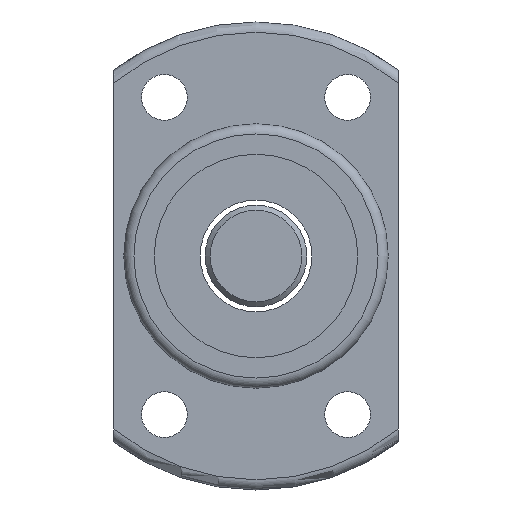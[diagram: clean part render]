
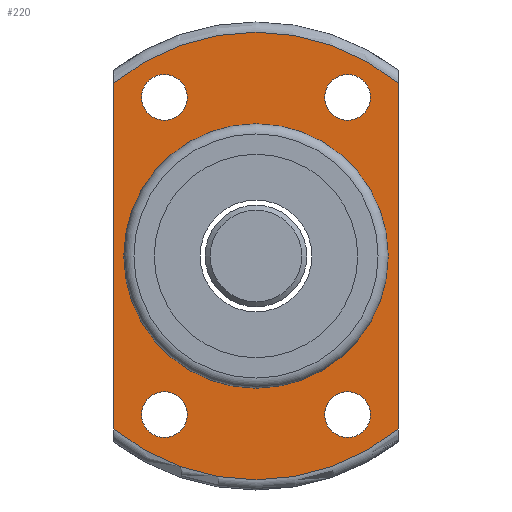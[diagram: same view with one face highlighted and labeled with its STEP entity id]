
A CAD part, left-side view. The second image highlights one B-rep face of the part: STEP entity #220.
In plain terms, the highlighted planar face has unit normal (-1, 0, 0).
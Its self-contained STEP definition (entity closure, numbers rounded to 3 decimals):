
#97=LINE('',#1059,#105);
#98=LINE('',#1060,#106);
#105=VECTOR('',#835,1.);
#106=VECTOR('',#836,1.);
#161=FACE_BOUND('',#308,.T.);
#162=FACE_BOUND('',#309,.T.);
#163=FACE_BOUND('',#310,.T.);
#164=FACE_BOUND('',#311,.T.);
#165=FACE_BOUND('',#312,.T.);
#220=ADVANCED_FACE('',(#161,#162,#163,#164,#165,#279),#257,.F.);
#257=PLANE('',#715);
#279=FACE_OUTER_BOUND('',#313,.T.);
#308=EDGE_LOOP('',(#401));
#309=EDGE_LOOP('',(#402));
#310=EDGE_LOOP('',(#403));
#311=EDGE_LOOP('',(#404));
#312=EDGE_LOOP('',(#405));
#313=EDGE_LOOP('',(#406,#407,#408,#409));
#401=ORIENTED_EDGE('',*,*,#590,.T.);
#402=ORIENTED_EDGE('',*,*,#591,.T.);
#403=ORIENTED_EDGE('',*,*,#592,.T.);
#404=ORIENTED_EDGE('',*,*,#593,.T.);
#405=ORIENTED_EDGE('',*,*,#594,.T.);
#406=ORIENTED_EDGE('',*,*,#595,.F.);
#407=ORIENTED_EDGE('',*,*,#596,.T.);
#408=ORIENTED_EDGE('',*,*,#579,.F.);
#409=ORIENTED_EDGE('',*,*,#597,.F.);
#520=VERTEX_POINT('',#998);
#522=VERTEX_POINT('',#1007);
#531=VERTEX_POINT('',#1047);
#532=VERTEX_POINT('',#1049);
#533=VERTEX_POINT('',#1051);
#534=VERTEX_POINT('',#1053);
#535=VERTEX_POINT('',#1055);
#536=VERTEX_POINT('',#1057);
#537=VERTEX_POINT('',#1058);
#579=EDGE_CURVE('',#522,#520,#646,.T.);
#590=EDGE_CURVE('',#531,#531,#651,.T.);
#591=EDGE_CURVE('',#532,#532,#652,.T.);
#592=EDGE_CURVE('',#533,#533,#653,.T.);
#593=EDGE_CURVE('',#534,#534,#654,.T.);
#594=EDGE_CURVE('',#535,#535,#655,.T.);
#595=EDGE_CURVE('',#536,#537,#656,.T.);
#596=EDGE_CURVE('',#536,#520,#97,.T.);
#597=EDGE_CURVE('',#537,#522,#98,.T.);
#646=CIRCLE('',#701,22.);
#651=CIRCLE('',#709,13.);
#652=CIRCLE('',#710,2.25);
#653=CIRCLE('',#711,2.25);
#654=CIRCLE('',#712,2.25);
#655=CIRCLE('',#713,2.25);
#656=CIRCLE('',#714,22.);
#701=AXIS2_PLACEMENT_3D('',#1008,#805,#806);
#709=AXIS2_PLACEMENT_3D('',#1046,#823,#824);
#710=AXIS2_PLACEMENT_3D('',#1048,#825,#826);
#711=AXIS2_PLACEMENT_3D('',#1050,#827,#828);
#712=AXIS2_PLACEMENT_3D('',#1052,#829,#830);
#713=AXIS2_PLACEMENT_3D('',#1054,#831,#832);
#714=AXIS2_PLACEMENT_3D('',#1056,#833,#834);
#715=AXIS2_PLACEMENT_3D('',#1061,#837,#838);
#805=DIRECTION('',(1.,0.,0.));
#806=DIRECTION('',(0.,0.,-1.));
#823=DIRECTION('',(1.,0.,0.));
#824=DIRECTION('',(0.,0.,-1.));
#825=DIRECTION('',(1.,0.,0.));
#826=DIRECTION('',(0.,0.,-1.));
#827=DIRECTION('',(1.,0.,0.));
#828=DIRECTION('',(0.,0.,-1.));
#829=DIRECTION('',(1.,0.,0.));
#830=DIRECTION('',(0.,0.,-1.));
#831=DIRECTION('',(1.,0.,0.));
#832=DIRECTION('',(0.,0.,-1.));
#833=DIRECTION('',(1.,0.,0.));
#834=DIRECTION('',(0.,0.,-1.));
#835=DIRECTION('',(0.,0.,-1.));
#836=DIRECTION('',(0.,0.,-1.));
#837=DIRECTION('',(1.,0.,0.));
#838=DIRECTION('',(0.,0.,-1.));
#998=CARTESIAN_POINT('',(-20.,14.,-16.971));
#1007=CARTESIAN_POINT('',(-20.,-14.,-16.971));
#1008=CARTESIAN_POINT('',(-20.,0.,0.));
#1046=CARTESIAN_POINT('',(-20.,0.,0.));
#1047=CARTESIAN_POINT('',(-20.,0.,-13.));
#1048=CARTESIAN_POINT('',(-20.,9.,15.59));
#1049=CARTESIAN_POINT('',(-20.,9.,13.34));
#1050=CARTESIAN_POINT('',(-20.,-9.,15.59));
#1051=CARTESIAN_POINT('',(-20.,-9.,13.34));
#1052=CARTESIAN_POINT('',(-20.,-9.,-15.59));
#1053=CARTESIAN_POINT('',(-20.,-9.,-17.84));
#1054=CARTESIAN_POINT('',(-20.,9.,-15.59));
#1055=CARTESIAN_POINT('',(-20.,9.,-17.84));
#1056=CARTESIAN_POINT('',(-20.,0.,0.));
#1057=CARTESIAN_POINT('',(-20.,14.,16.971));
#1058=CARTESIAN_POINT('',(-20.,-14.,16.971));
#1059=CARTESIAN_POINT('',(-20.,14.,0.));
#1060=CARTESIAN_POINT('',(-20.,-14.,0.));
#1061=CARTESIAN_POINT('',(-20.,17.5,0.));
